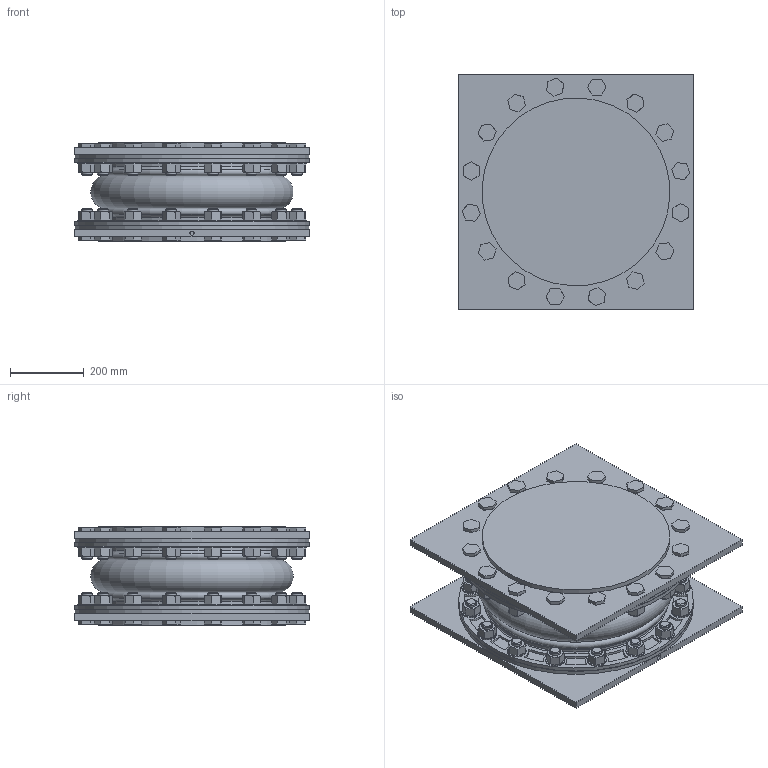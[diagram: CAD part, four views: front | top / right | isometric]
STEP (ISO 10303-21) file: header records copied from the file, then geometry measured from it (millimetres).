
FILE_DESCRIPTION(/* description */ (''),/* implementation_level */ '2;1');
FILE_NAME(/* name */ 'C:\Users\rramoutar\Desktop\New folder\451AS-18.stp',/* time_stamp */ '2016-01-15T14:40:23-05:00',/* author */ ('rramoutar'),/* organization */ ('Mason Industries Inc.'),/* preprocessor_version */ 'ST-DEVELOPER v15.6',/* originating_system */ 'Autodesk Inventor 2015',/* authorisation */ '');
FILE_SCHEMA (('CONFIG_CONTROL_DESIGN'));
Products named in the file (1): 451AS-18
Bounding box: 635 x 635 x 266.7 mm (x, y, z)
Volume: 34926021.5 mm3; surface area: 5801103.6 mm2
Topology: 104 solids, 106 shells, 2575 faces, 5907 edges, 3654 vertices
Faces by surface type: plane 1101, cylinder 724, cone 516, bspline 184, torus 50
Full cylindrical faces by diameter (mm): 11.112 x1, 15.875 x4, 24.638 x32, 25.4 x1, 28.575 x32, 30.175 x32, 31.75 x288, 42.875 x32, 50.8 x32, 254.508 x1, 273.05 x1, 457.2 x2, 481.203 x2, 488.95 x2, 508 x2, 635 x4
Entity records: 71867 total; most frequent: CARTESIAN_POINT 16014, DIRECTION 10740, ORIENTED_EDGE 10250, EDGE_CURVE 5125, AXIS2_PLACEMENT_3D 4369, EDGE_LOOP 3678, VERTEX_POINT 3523, STYLED_ITEM 2679
